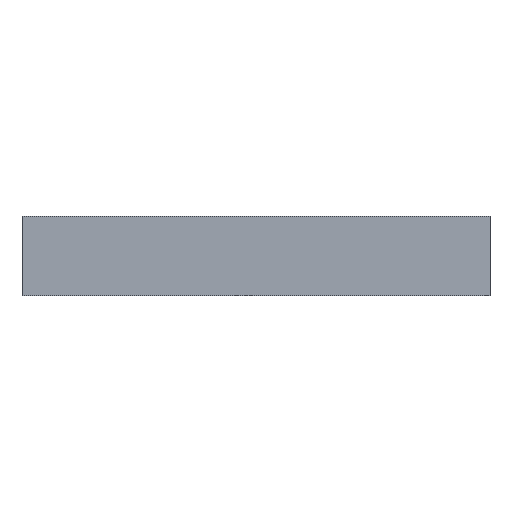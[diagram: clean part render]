
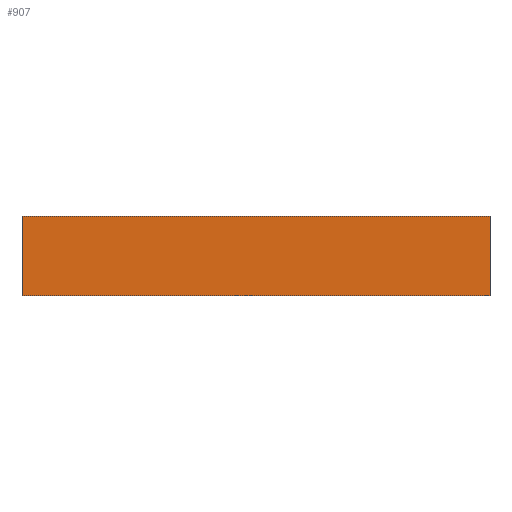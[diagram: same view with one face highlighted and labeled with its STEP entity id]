
A CAD part, front view. The second image highlights one B-rep face of the part: STEP entity #907.
In plain terms, the highlighted planar face has unit normal (0, -1, 0).
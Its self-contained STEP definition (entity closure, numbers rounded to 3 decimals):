
#50 = PLANE('',#51);
#51 = AXIS2_PLACEMENT_3D('',#52,#53,#54);
#52 = CARTESIAN_POINT('',(-1.398,-28.115,0.));
#53 = DIRECTION('',(0.,0.,-1.));
#54 = DIRECTION('',(1.,0.,0.));
#75 = VERTEX_POINT('',#76);
#76 = CARTESIAN_POINT('',(8.,-13.35,0.));
#90 = PLANE('',#91);
#91 = AXIS2_PLACEMENT_3D('',#92,#93,#94);
#92 = CARTESIAN_POINT('',(8.,-13.5,6.));
#93 = DIRECTION('',(1.,0.,0.));
#94 = DIRECTION('',(0.,1.,0.));
#102 = EDGE_CURVE('',#103,#75,#105,.T.);
#103 = VERTEX_POINT('',#104);
#104 = CARTESIAN_POINT('',(43.5,-13.35,0.));
#105 = SURFACE_CURVE('',#106,(#110,#117),.PCURVE_S1.);
#106 = LINE('',#107,#108);
#107 = CARTESIAN_POINT('',(21.051,-13.35,0.));
#108 = VECTOR('',#109,1.);
#109 = DIRECTION('',(-1.,0.,0.));
#110 = PCURVE('',#50,#111);
#111 = DEFINITIONAL_REPRESENTATION('',(#112),#116);
#112 = LINE('',#113,#114);
#113 = CARTESIAN_POINT('',(22.449,-14.765));
#114 = VECTOR('',#115,1.);
#115 = DIRECTION('',(-1.,0.));
#116 = ( GEOMETRIC_REPRESENTATION_CONTEXT(2) 
PARAMETRIC_REPRESENTATION_CONTEXT() REPRESENTATION_CONTEXT('2D SPACE',''
  ) );
#117 = PCURVE('',#118,#123);
#118 = PLANE('',#119);
#119 = AXIS2_PLACEMENT_3D('',#120,#121,#122);
#120 = CARTESIAN_POINT('',(43.5,-13.35,6.));
#121 = DIRECTION('',(0.,1.,0.));
#122 = DIRECTION('',(-1.,0.,0.));
#123 = DEFINITIONAL_REPRESENTATION('',(#124),#128);
#124 = LINE('',#125,#126);
#125 = CARTESIAN_POINT('',(22.449,-6.));
#126 = VECTOR('',#127,1.);
#127 = DIRECTION('',(1.,0.));
#128 = ( GEOMETRIC_REPRESENTATION_CONTEXT(2) 
PARAMETRIC_REPRESENTATION_CONTEXT() REPRESENTATION_CONTEXT('2D SPACE',''
  ) );
#146 = PLANE('',#147);
#147 = AXIS2_PLACEMENT_3D('',#148,#149,#150);
#148 = CARTESIAN_POINT('',(43.5,13.5,6.));
#149 = DIRECTION('',(-1.,-0.,-0.));
#150 = DIRECTION('',(0.,-1.,0.));
#517 = VERTEX_POINT('',#518);
#518 = CARTESIAN_POINT('',(8.,-13.35,6.));
#534 = PLANE('',#535);
#535 = AXIS2_PLACEMENT_3D('',#536,#537,#538);
#536 = CARTESIAN_POINT('',(25.75,0.,6.));
#537 = DIRECTION('',(0.,0.,1.));
#538 = DIRECTION('',(1.,0.,0.));
#546 = EDGE_CURVE('',#517,#75,#547,.T.);
#547 = SURFACE_CURVE('',#548,(#552,#559),.PCURVE_S1.);
#548 = LINE('',#549,#550);
#549 = CARTESIAN_POINT('',(8.,-13.35,6.));
#550 = VECTOR('',#551,1.);
#551 = DIRECTION('',(-0.,-0.,-1.));
#552 = PCURVE('',#90,#553);
#553 = DEFINITIONAL_REPRESENTATION('',(#554),#558);
#554 = LINE('',#555,#556);
#555 = CARTESIAN_POINT('',(0.15,0.));
#556 = VECTOR('',#557,1.);
#557 = DIRECTION('',(0.,-1.));
#558 = ( GEOMETRIC_REPRESENTATION_CONTEXT(2) 
PARAMETRIC_REPRESENTATION_CONTEXT() REPRESENTATION_CONTEXT('2D SPACE',''
  ) );
#559 = PCURVE('',#118,#560);
#560 = DEFINITIONAL_REPRESENTATION('',(#561),#565);
#561 = LINE('',#562,#563);
#562 = CARTESIAN_POINT('',(35.5,0.));
#563 = VECTOR('',#564,1.);
#564 = DIRECTION('',(0.,-1.));
#565 = ( GEOMETRIC_REPRESENTATION_CONTEXT(2) 
PARAMETRIC_REPRESENTATION_CONTEXT() REPRESENTATION_CONTEXT('2D SPACE',''
  ) );
#907 = ADVANCED_FACE('',(#908),#118,.F.);
#908 = FACE_BOUND('',#909,.F.);
#909 = EDGE_LOOP('',(#910,#933,#954,#955));
#910 = ORIENTED_EDGE('',*,*,#911,.F.);
#911 = EDGE_CURVE('',#912,#517,#914,.T.);
#912 = VERTEX_POINT('',#913);
#913 = CARTESIAN_POINT('',(43.5,-13.35,6.));
#914 = SURFACE_CURVE('',#915,(#919,#926),.PCURVE_S1.);
#915 = LINE('',#916,#917);
#916 = CARTESIAN_POINT('',(43.5,-13.35,6.));
#917 = VECTOR('',#918,1.);
#918 = DIRECTION('',(-1.,0.,0.));
#919 = PCURVE('',#118,#920);
#920 = DEFINITIONAL_REPRESENTATION('',(#921),#925);
#921 = LINE('',#922,#923);
#922 = CARTESIAN_POINT('',(0.,0.));
#923 = VECTOR('',#924,1.);
#924 = DIRECTION('',(1.,0.));
#925 = ( GEOMETRIC_REPRESENTATION_CONTEXT(2) 
PARAMETRIC_REPRESENTATION_CONTEXT() REPRESENTATION_CONTEXT('2D SPACE',''
  ) );
#926 = PCURVE('',#534,#927);
#927 = DEFINITIONAL_REPRESENTATION('',(#928),#932);
#928 = LINE('',#929,#930);
#929 = CARTESIAN_POINT('',(17.75,-13.35));
#930 = VECTOR('',#931,1.);
#931 = DIRECTION('',(-1.,0.));
#932 = ( GEOMETRIC_REPRESENTATION_CONTEXT(2) 
PARAMETRIC_REPRESENTATION_CONTEXT() REPRESENTATION_CONTEXT('2D SPACE',''
  ) );
#933 = ORIENTED_EDGE('',*,*,#934,.T.);
#934 = EDGE_CURVE('',#912,#103,#935,.T.);
#935 = SURFACE_CURVE('',#936,(#940,#947),.PCURVE_S1.);
#936 = LINE('',#937,#938);
#937 = CARTESIAN_POINT('',(43.5,-13.35,6.));
#938 = VECTOR('',#939,1.);
#939 = DIRECTION('',(-0.,-0.,-1.));
#940 = PCURVE('',#118,#941);
#941 = DEFINITIONAL_REPRESENTATION('',(#942),#946);
#942 = LINE('',#943,#944);
#943 = CARTESIAN_POINT('',(0.,0.));
#944 = VECTOR('',#945,1.);
#945 = DIRECTION('',(0.,-1.));
#946 = ( GEOMETRIC_REPRESENTATION_CONTEXT(2) 
PARAMETRIC_REPRESENTATION_CONTEXT() REPRESENTATION_CONTEXT('2D SPACE',''
  ) );
#947 = PCURVE('',#146,#948);
#948 = DEFINITIONAL_REPRESENTATION('',(#949),#953);
#949 = LINE('',#950,#951);
#950 = CARTESIAN_POINT('',(26.85,0.));
#951 = VECTOR('',#952,1.);
#952 = DIRECTION('',(0.,-1.));
#953 = ( GEOMETRIC_REPRESENTATION_CONTEXT(2) 
PARAMETRIC_REPRESENTATION_CONTEXT() REPRESENTATION_CONTEXT('2D SPACE',''
  ) );
#954 = ORIENTED_EDGE('',*,*,#102,.T.);
#955 = ORIENTED_EDGE('',*,*,#546,.F.);
